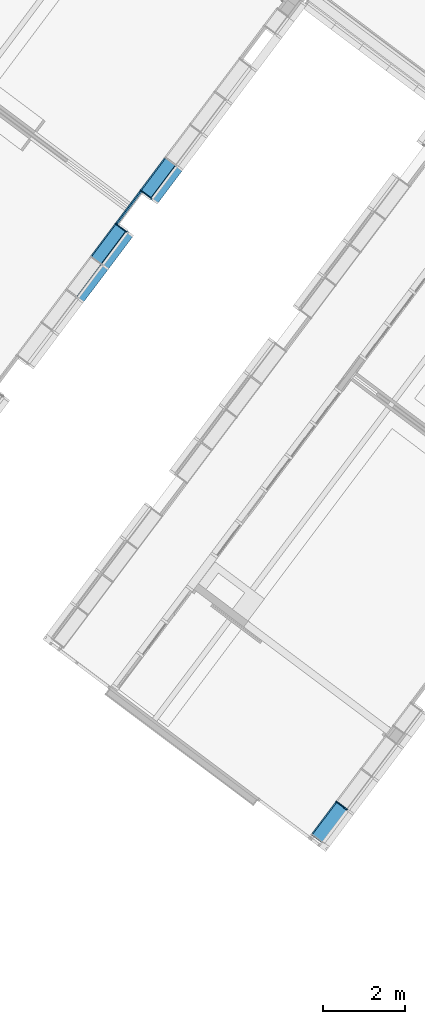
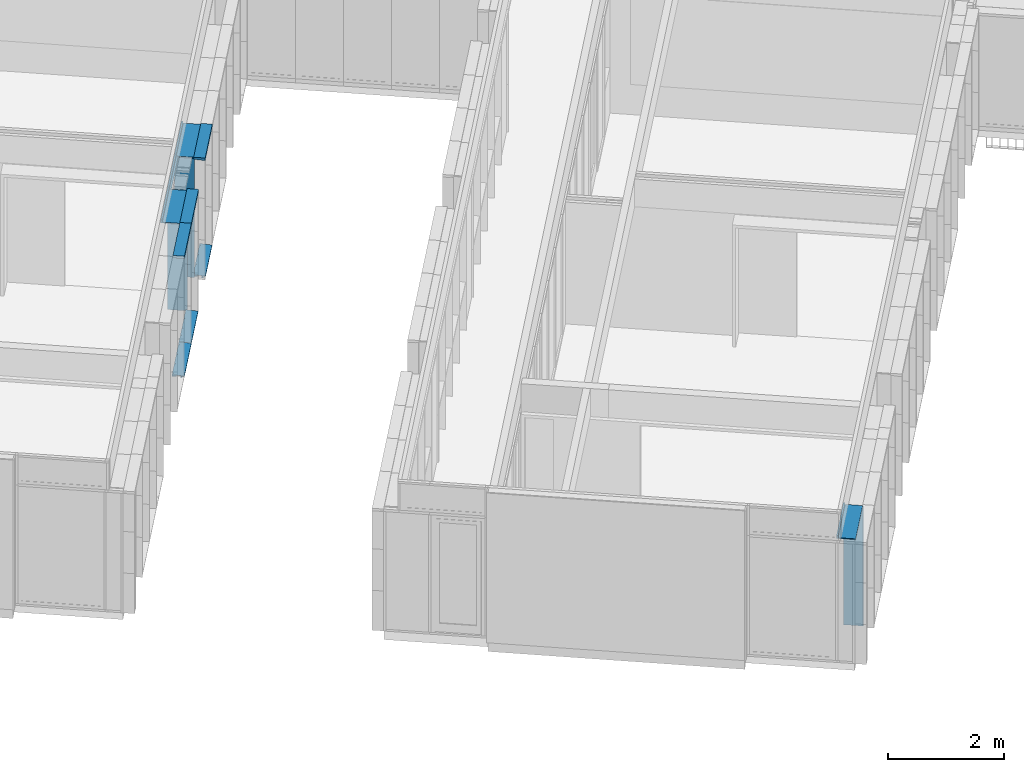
# One storey, part 42 of 243: 13 members, 3 elements without a shape of their own.
"""IFC2X3 building model written with IfcOpenShell, lengths in metres."""

from ifc_helpers import new_model, entity, si_unit, converted_unit, derived_unit, direction, frame, frame_2d, origin, place, context, subcontext, project, spatial, polyline, circle_curve, parameter, trimmed, segment, composite_curve, rectangle, outline, extrude, source, transform, mapped, material, type_object, type_shapes, element, aggregate, save


model = new_model("IFC2X3")

# Units and contexts
model_context = context("Model", 3, precision=1e-05, world=origin(), true_north=direction((6.123031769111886e-17, 1.0)))
body_context = subcontext(model_context, "Body", "Model", "MODEL_VIEW")
ifc_project = project(units=[si_unit("LENGTHUNIT", "METRE"), si_unit("AREAUNIT", "SQUARE_METRE"), si_unit("VOLUMEUNIT", "CUBIC_METRE"), converted_unit("PLANEANGLEUNIT", "DEGREE", entity("IfcRatioMeasure", 0.017453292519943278), si_unit("PLANEANGLEUNIT", "RADIAN"), dimensions=[0, 0, 0, 0, 0, 0, 0]), si_unit("MASSUNIT", "GRAM", prefix="KILO"), derived_unit("MASSDENSITYUNIT", [(si_unit("MASSUNIT", "GRAM", prefix="KILO"), 1), (si_unit("LENGTHUNIT", "METRE"), -3)]), derived_unit("IONCONCENTRATIONUNIT", [(si_unit("MASSUNIT", "GRAM", prefix="KILO"), 1), (si_unit("LENGTHUNIT", "METRE"), -3)]), derived_unit("MOMENTOFINERTIAUNIT", [(si_unit("LENGTHUNIT", "METRE"), 4)]), si_unit("TIMEUNIT", "SECOND"), si_unit("FREQUENCYUNIT", "HERTZ"), si_unit("THERMODYNAMICTEMPERATUREUNIT", "DEGREE_CELSIUS"), derived_unit("THERMALTRANSMITTANCEUNIT", [(si_unit("MASSUNIT", "GRAM", prefix="KILO"), 1), (si_unit("THERMODYNAMICTEMPERATUREUNIT", "KELVIN"), -1), (si_unit("TIMEUNIT", "SECOND"), -3)]), derived_unit("THERMALCONDUCTANCEUNIT", [(si_unit("MASSUNIT", "GRAM", prefix="KILO"), 1), (si_unit("THERMODYNAMICTEMPERATUREUNIT", "KELVIN"), -1), (si_unit("TIMEUNIT", "SECOND"), -3), (si_unit("LENGTHUNIT", "METRE"), 1)]), derived_unit("VOLUMETRICFLOWRATEUNIT", [(si_unit("LENGTHUNIT", "METRE"), 3), (si_unit("TIMEUNIT", "SECOND"), -1)]), derived_unit("MASSFLOWRATEUNIT", [(si_unit("MASSUNIT", "GRAM", prefix="KILO"), 1), (si_unit("TIMEUNIT", "SECOND"), -1)]), derived_unit("ROTATIONALFREQUENCYUNIT", [(si_unit("TIMEUNIT", "SECOND"), -1)]), si_unit("ELECTRICCURRENTUNIT", "AMPERE"), si_unit("ELECTRICVOLTAGEUNIT", "VOLT"), si_unit("POWERUNIT", "WATT"), si_unit("FORCEUNIT", "NEWTON", prefix="KILO"), si_unit("ILLUMINANCEUNIT", "LUX"), si_unit("LUMINOUSFLUXUNIT", "LUMEN"), si_unit("LUMINOUSINTENSITYUNIT", "CANDELA"), derived_unit("USERDEFINED", [(si_unit("MASSUNIT", "GRAM", prefix="KILO"), -1), (si_unit("LENGTHUNIT", "METRE"), -2), (si_unit("TIMEUNIT", "SECOND"), 3), (si_unit("LUMINOUSFLUXUNIT", "LUMEN"), 1)]), derived_unit("USERDEFINED", [(si_unit("MASSUNIT", "GRAM", prefix="KILO"), 1), (si_unit("TIMEUNIT", "SECOND"), -3), (si_unit("LENGTHUNIT", "METRE"), 3), (si_unit("ELECTRICCURRENTUNIT", "AMPERE"), -2)]), derived_unit("SOUNDPOWERUNIT", [(si_unit("MASSUNIT", "GRAM", prefix="KILO"), 1), (si_unit("TIMEUNIT", "SECOND"), -3), (si_unit("LENGTHUNIT", "METRE"), 2)]), derived_unit("SOUNDPRESSUREUNIT", [(si_unit("MASSUNIT", "GRAM", prefix="KILO"), 1), (si_unit("LENGTHUNIT", "METRE"), -1), (si_unit("TIMEUNIT", "SECOND"), -2)]), derived_unit("LINEARVELOCITYUNIT", [(si_unit("LENGTHUNIT", "METRE"), 1), (si_unit("TIMEUNIT", "SECOND"), -1)]), si_unit("PRESSUREUNIT", "PASCAL"), derived_unit("USERDEFINED", [(si_unit("MASSUNIT", "GRAM", prefix="KILO"), 1), (si_unit("LENGTHUNIT", "METRE"), -2), (si_unit("TIMEUNIT", "SECOND"), -2)]), derived_unit("LINEARFORCEUNIT", [(si_unit("MASSUNIT", "GRAM", prefix="KILO"), 1), (si_unit("TIMEUNIT", "SECOND"), -2)]), derived_unit("PLANARFORCEUNIT", [(si_unit("MASSUNIT", "GRAM", prefix="KILO"), 1), (si_unit("LENGTHUNIT", "METRE"), -1), (si_unit("TIMEUNIT", "SECOND"), -2)]), derived_unit("SPECIFICHEATCAPACITYUNIT", [(si_unit("THERMODYNAMICTEMPERATUREUNIT", "KELVIN"), -1), (si_unit("LENGTHUNIT", "METRE"), 2), (si_unit("TIMEUNIT", "SECOND"), -2)]), derived_unit("HEATINGVALUEUNIT", [(si_unit("LENGTHUNIT", "METRE"), 2), (si_unit("TIMEUNIT", "SECOND"), -2)]), derived_unit("VAPORPERMEABILITYUNIT", [(si_unit("LENGTHUNIT", "METRE"), -1), (si_unit("TIMEUNIT", "SECOND"), 1)]), derived_unit("DYNAMICVISCOSITYUNIT", [(si_unit("MASSUNIT", "GRAM", prefix="KILO"), 1), (si_unit("TIMEUNIT", "SECOND"), -1), (si_unit("LENGTHUNIT", "METRE"), -1)]), derived_unit("THERMALEXPANSIONCOEFFICIENTUNIT", [(si_unit("THERMODYNAMICTEMPERATUREUNIT", "KELVIN"), -1)]), derived_unit("MODULUSOFELASTICITYUNIT", [(si_unit("MASSUNIT", "GRAM", prefix="KILO"), 1), (si_unit("LENGTHUNIT", "METRE"), -1), (si_unit("TIMEUNIT", "SECOND"), -2)]), derived_unit("ISOTHERMALMOISTURECAPACITYUNIT", [(si_unit("LENGTHUNIT", "METRE"), 3), (si_unit("MASSUNIT", "GRAM", prefix="KILO"), -1)]), derived_unit("MOISTUREDIFFUSIVITYUNIT", [(si_unit("TIMEUNIT", "SECOND"), -1), (si_unit("LENGTHUNIT", "METRE"), 2)])], contexts=[model_context])

# Site, building, storey
site_placement = place(None, frame((0.0, 0.0, 235.0), z_axis=(0.0, 0.0, 1.0), x_axis=(-0.7996477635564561, 0.6004693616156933, 0.0)))
site = spatial("IfcSite", under=ifc_project, at=site_placement, Name="Default", CompositionType="ELEMENT")
building_placement = place(site_placement, origin())
building = spatial("IfcBuilding", under=site, at=building_placement, CompositionType="ELEMENT")
storey_placement = place(building_placement, origin())
storey = spatial("IfcBuildingStorey", under=building, at=storey_placement, Name="P0- Escola", CompositionType="ELEMENT", Elevation=0.0)

# Curtain wall, members
curtain_wall_type_1 = type_object("IfcCurtainWallType", Name="Muro cortina:MC- EXT- MC2", PredefinedType="NOTDEFINED")
curtain_wall_1_placement = place(storey_placement, origin())
curtain_wall_1 = element("IfcCurtainWall", 1, at=curtain_wall_1_placement, inside=storey, type_object=curtain_wall_type_1, Name="Muro cortina:MC- EXT- MC2", ObjectType="Muro cortina:MC- EXT- MC2")
ifc_material_1 = material(Name="_Alumini- T1- Perfil")
member_type_1 = type_object("IfcMemberType", Name="Montante rectangular:MC- Alu- 140x52,5 cm- Fa patis- Superior", PredefinedType="MULLION", material=ifc_material_1)
shared_shape_1 = source(origin(), body_context, "Body", "SweptSolid", [
    extrude(outline(polyline([(-0.11366666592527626, -0.021249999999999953), (0.026333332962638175, -0.021249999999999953), (0.026333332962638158, -0.010000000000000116), (0.0873333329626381, -0.010000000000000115), (0.0873333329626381, 0.03125000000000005), (-0.11366666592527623, 0.031250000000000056), (-0.11366666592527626, -0.021249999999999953)])), frame((-0.031250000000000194, 0.0273333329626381, -1.0), z_axis=(0.0, 0.0, 1.0), x_axis=(0.0, -1.0, 0.0)), (0.0, 0.0, 1.0), 0.9999999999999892),
])
type_shapes(member_type_1, [shared_shape_1])
member_1_placement = place(curtain_wall_1_placement, frame((66.44514768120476, -28.415191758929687, 2.545), z_axis=(0.0, -1.0, 0.0), x_axis=(0.0, 0.0, 1.0)))
member_1 = element("IfcMember", 2, at=member_1_placement, type_object=member_type_1, material=ifc_material_1, Name="Montante rectangular:MC- Alu- 140x52,5 cm- Fa patis- Superior", ObjectType="Montante rectangular:MC- Alu- 140x52,5 cm- Fa patis- Superior", context=body_context, shape_type="MappedRepresentation", body=[
    mapped(shared_shape_1, transform((0.0, 0.0, 0.0), scale=1.0)),
])
member_type_2 = type_object("IfcMemberType", Name="Montante rectangular:MC- Alu- 140x52,5 cm- Fa patis- inferior", PredefinedType="MULLION", material=ifc_material_1)
shared_shape_2 = source(origin(), body_context, "Body", "SweptSolid", [
    extrude(outline(composite_curve([segment(polyline([(0.1278672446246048, -0.02586710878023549), (0.14416724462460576, -0.025867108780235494)]), True, "CONTINUOUS"), segment(polyline([(0.14416724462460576, -0.025867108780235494), (0.1441672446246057, 0.009132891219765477)]), True, "CONTINUOUS"), segment(polyline([(0.1441672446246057, 0.009132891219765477), (0.06786724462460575, 0.009132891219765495)]), True, "CONTINUOUS"), segment(polyline([(0.06786724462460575, 0.009132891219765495), (0.06786724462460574, -0.021159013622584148)]), True, "CONTINUOUS"), segment(polyline([(0.06786724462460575, -0.02115901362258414), (-0.030132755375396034, -0.012332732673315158)]), True, "CONTINUOUS"), segment(polyline([(-0.03013275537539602, -0.012332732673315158), (-0.030132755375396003, 0.027132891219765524)]), True, "CONTINUOUS"), segment(polyline([(-0.030132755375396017, 0.02713289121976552), (-0.0021327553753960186, 0.02713289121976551)]), True, "CONTINUOUS"), segment(polyline([(-0.0021327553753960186, 0.027132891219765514), (-0.0021327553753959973, 0.029132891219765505)]), True, "CONTINUOUS"), segment(polyline([(-0.0021327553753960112, 0.029132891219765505), (-0.032132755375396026, 0.029132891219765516)]), True, "CONTINUOUS"), segment(polyline([(-0.032132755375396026, 0.029132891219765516), (-0.03213275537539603, -0.012152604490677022)]), True, "CONTINUOUS"), segment(polyline([(-0.03213275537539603, -0.012152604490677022), (-0.0701327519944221, -0.008730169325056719)]), True, "CONTINUOUS"), segment(polyline([(-0.0701327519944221, -0.008730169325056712), (-0.0701327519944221, 0.005766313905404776)]), True, "CONTINUOUS"), segment(trimmed(circle_curve(frame_2d((-0.0696327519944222, 0.0057663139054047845), x_axis=(-1.0, 0.0)), 0.0004999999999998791), [parameter(269.999999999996)], [parameter(0.0)], True, "PARAMETER"), False, "CONTINUOUS"), segment(polyline([(-0.0696327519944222, 0.00626631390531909), (-0.06213275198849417, 0.006266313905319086)]), True, "CONTINUOUS"), segment(polyline([(-0.06213275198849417, 0.006266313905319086), (-0.06213275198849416, 0.008266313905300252)]), True, "CONTINUOUS"), segment(polyline([(-0.06213275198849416, 0.008266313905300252), (-0.07013275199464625, 0.008266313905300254)]), True, "CONTINUOUS"), segment(trimmed(circle_curve(frame_2d((-0.07013275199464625, 0.006266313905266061), x_axis=(0.0, 1.0)), 0.0020000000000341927), [parameter(0.0)], [parameter(90.00000002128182)], True, "PARAMETER"), True, "CONTINUOUS"), segment(polyline([(-0.07213275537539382, 0.006266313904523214), (-0.07213275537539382, -0.008730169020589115)]), True, "CONTINUOUS"), segment(trimmed(circle_curve(frame_2d((-0.07013275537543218, -0.008730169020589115), x_axis=(-1.0, 0.0)), 0.0019999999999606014), [parameter(0.0)], [parameter(84.8535928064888)], True, "PARAMETER"), True, "CONTINUOUS"), segment(polyline([(-0.07031215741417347, -0.01072210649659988), (0.06786724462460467, -0.023167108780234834)]), True, "CONTINUOUS"), segment(polyline([(0.06786724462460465, -0.023167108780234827), (0.12786724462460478, -0.023167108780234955)]), True, "CONTINUOUS"), segment(polyline([(0.12786724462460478, -0.023167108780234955), (0.1278672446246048, -0.02586710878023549)]), True, "CONTINUOUS")], self_intersect=False)), frame((-0.029132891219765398, 0.06786724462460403, -1.0), z_axis=(0.0, 0.0, 1.0), x_axis=(0.0, -1.0, 0.0)), (0.0, 0.0, 1.0), 0.9999999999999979),
])
type_shapes(member_type_2, [shared_shape_2])
member_2_placement = place(curtain_wall_1_placement, frame((66.44514768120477, -27.41519175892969, -0.02), z_axis=(0.0, 1.0, 0.0), x_axis=(0.0, 0.0, -1.0)))
member_2 = element("IfcMember", 3, at=member_2_placement, type_object=member_type_2, material=ifc_material_1, Name="Montante rectangular:MC- Alu- 140x52,5 cm- Fa patis- inferior", ObjectType="Montante rectangular:MC- Alu- 140x52,5 cm- Fa patis- inferior", context=body_context, shape_type="MappedRepresentation", body=[
    mapped(shared_shape_2, transform((0.0, 0.0, 0.0), scale=1.0)),
])

curtain_wall_type_2 = type_object("IfcCurtainWallType", Name="Muro cortina:MC- INT- k7- Aules infantil", PredefinedType="NOTDEFINED")
curtain_wall_2_placement = place(storey_placement, origin())
curtain_wall_2 = element("IfcCurtainWall", 4, at=curtain_wall_2_placement, inside=storey, type_object=curtain_wall_type_2, Name="Muro cortina:MC- INT- k7- Aules infantil", ObjectType="Muro cortina:MC- INT- k7- Aules infantil")
ifc_material_2 = material(Name="_Fusta massisa- T1")
member_type_3 = type_object("IfcMemberType", Name="Montante rectangular:MC- Fusta- 35x3 cm- Pati aules- Remat superior", PredefinedType="MULLION", material=ifc_material_2)
shared_shape_3 = source(origin(), body_context, "Body", "SweptSolid", [
    extrude(outline(polyline([(-0.21333333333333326, -0.02666666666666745), (0.1216666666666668, -0.02666666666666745), (0.12166666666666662, 0.03333333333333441), (0.09166666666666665, 0.03333333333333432), (0.09166666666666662, -0.006666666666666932), (-0.2133333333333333, -0.006666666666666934), (-0.21333333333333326, -0.02666666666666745)])), frame((-0.033333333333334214, 0.026666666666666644, -1.0100000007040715), z_axis=(0.0, 0.0, 1.0), x_axis=(0.0, -1.0, 0.0)), (0.0, 0.0, 1.0), 1.0100000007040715),
])
type_shapes(member_type_3, [shared_shape_3])
member_3_placement = place(curtain_wall_2_placement, frame((54.04514768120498, -21.41519175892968, 2.565), z_axis=(0.0, -1.0, 0.0), x_axis=(0.0, 0.0, 1.0)))
member_3 = element("IfcMember", 5, at=member_3_placement, type_object=member_type_3, material=ifc_material_2, Name="Montante rectangular:MC- Fusta- 35x3 cm- Pati aules- Remat superior", ObjectType="Montante rectangular:MC- Fusta- 35x3 cm- Pati aules- Remat superior", context=body_context, shape_type="MappedRepresentation", body=[
    mapped(shared_shape_3, transform((0.0, 0.0, 0.0), scale=1.0)),
])
member_type_4 = type_object("IfcMemberType", Name="Montante rectangular:MC- Fusta- 35x3 cm- Centre", PredefinedType="MULLION", material=ifc_material_2)
shared_shape_4 = source(origin(), body_context, "Body", "SweptSolid", [
    extrude(rectangle(XDim=0.3450000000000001, YDim=0.030000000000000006, at=frame_2d((0.0, 1.3964523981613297e-16), x_axis=(1.0, 0.0))), frame((0.0, 0.07750000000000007, -2.5049999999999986), z_axis=(0.0, 0.0, 1.0), x_axis=(0.0, -1.0, 0.0)), (0.0, 0.0, 1.0), 2.5049999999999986),
])
type_shapes(member_type_4, [shared_shape_4])
member_4_placement = place(curtain_wall_2_placement, frame((54.04514768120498, -21.41519175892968, 0.0), z_axis=(0.0, 0.0, -1.0), x_axis=(0.0, -1.0, 0.0)))
member_4 = element("IfcMember", 6, at=member_4_placement, type_object=member_type_4, material=ifc_material_2, Name="Montante rectangular:MC- Fusta- 35x3 cm- Centre", ObjectType="Montante rectangular:MC- Fusta- 35x3 cm- Centre", context=body_context, shape_type="MappedRepresentation", body=[
    mapped(shared_shape_4, transform((0.0, 0.0, 0.0), scale=1.0)),
])
aggregate(curtain_wall_2, [member_3, member_4])

curtain_wall_3_placement = place(storey_placement, origin())
curtain_wall_3 = element("IfcCurtainWall", 7, at=curtain_wall_3_placement, inside=storey, type_object=curtain_wall_type_2, Name="Muro cortina:MC- INT- k7- Aules infantil", ObjectType="Muro cortina:MC- INT- k7- Aules infantil")
member_type_5 = type_object("IfcMemberType", Name="Montante rectangular:MC- Fusta- 35x3 cm- Pati aules- Remat dreta", PredefinedType="MULLION", material=ifc_material_2)
shared_shape_5 = source(origin(), body_context, "Body", "SweptSolid", [
    extrude(outline(polyline([(-0.22, -0.01666666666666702), (0.12500000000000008, -0.01666666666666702), (0.12500000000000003, 0.013333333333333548), (0.09500000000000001, 0.013333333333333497), (0.09499999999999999, 0.003333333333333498), (-0.22, 0.003333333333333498), (-0.22, -0.01666666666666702)])), frame((0.0016666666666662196, 0.03000000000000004, -2.504999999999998), z_axis=(0.0, 0.0, 1.0), x_axis=(0.0, -1.0, 0.0)), (0.0, 0.0, 1.0), 2.5049999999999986),
])
type_shapes(member_type_5, [shared_shape_5])
member_5_placement = place(curtain_wall_3_placement, frame((66.74514768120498, -29.415191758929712, 0.0), z_axis=(0.0, 0.0, -1.0), x_axis=(0.0, -1.0, 0.0)))
member_5 = element("IfcMember", 8, at=member_5_placement, type_object=member_type_5, material=ifc_material_2, Name="Montante rectangular:MC- Fusta- 35x3 cm- Pati aules- Remat dreta", ObjectType="Montante rectangular:MC- Fusta- 35x3 cm- Pati aules- Remat dreta", context=body_context, shape_type="MappedRepresentation", body=[
    mapped(shared_shape_5, transform((0.0, 0.0, 0.0), scale=1.0)),
])
member_type_6 = type_object("IfcMemberType", Name="Montante rectangular:MC- Fusta- 35x3 cm- Pati aules- Remat superior pilar", PredefinedType="MULLION", material=ifc_material_2)
shared_shape_6 = source(origin(), body_context, "Body", "SweptSolid", [
    extrude(outline(polyline([(-0.03333333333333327, -0.02666666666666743), (0.031666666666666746, -0.02666666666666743), (0.031666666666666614, 0.03333333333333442), (0.0016666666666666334, 0.033333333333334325), (0.0016666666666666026, -0.006666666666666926), (-0.03333333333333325, -0.00666666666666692), (-0.03333333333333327, -0.02666666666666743)])), frame((-0.03333333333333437, -0.06333333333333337, -1.0), z_axis=(0.0, 0.0, 1.0), x_axis=(0.0, -1.0, 0.0)), (0.0, 0.0, 1.0), 0.9999999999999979),
])
type_shapes(member_type_6, [shared_shape_6])
member_6_placement = place(curtain_wall_3_placement, frame((66.745147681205, -30.415191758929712, 2.565), z_axis=(0.0, -1.0, 0.0), x_axis=(0.0, 0.0, 1.0)))
member_6 = element("IfcMember", 9, at=member_6_placement, type_object=member_type_6, material=ifc_material_2, Name="Montante rectangular:MC- Fusta- 35x3 cm- Pati aules- Remat superior pilar", ObjectType="Montante rectangular:MC- Fusta- 35x3 cm- Pati aules- Remat superior pilar", context=body_context, shape_type="MappedRepresentation", body=[
    mapped(shared_shape_6, transform((0.0, 0.0, 0.0), scale=1.0)),
])
member_type_7 = type_object("IfcMemberType", Name="Montante rectangular:MC- Fusta- 35x3 cm- Pati aules- Remat esquerra", PredefinedType="MULLION", material=ifc_material_2)
shared_shape_7 = source(origin(), body_context, "Body", "SweptSolid", [
    extrude(outline(polyline([(0.09500000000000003, -0.013333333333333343), (0.12500000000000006, -0.013333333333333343), (0.12500000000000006, 0.01666666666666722), (-0.22000000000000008, 0.016666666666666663), (-0.22000000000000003, -0.0033333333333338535), (0.09499999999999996, -0.003333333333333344), (0.09500000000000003, -0.013333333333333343)])), frame((-0.0016666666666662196, 0.03000000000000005, -2.504999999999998), z_axis=(0.0, 0.0, 1.0), x_axis=(0.0, -1.0, 0.0)), (0.0, 0.0, 1.0), 2.5049999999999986),
])
type_shapes(member_type_7, [shared_shape_7])
member_7_placement = place(curtain_wall_3_placement, frame((66.745147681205, -30.415191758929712, 0.0), z_axis=(0.0, 0.0, -1.0), x_axis=(0.0, -1.0, 0.0)))
member_7 = element("IfcMember", 10, at=member_7_placement, type_object=member_type_7, material=ifc_material_2, Name="Montante rectangular:MC- Fusta- 35x3 cm- Pati aules- Remat esquerra", ObjectType="Montante rectangular:MC- Fusta- 35x3 cm- Pati aules- Remat esquerra", context=body_context, shape_type="MappedRepresentation", body=[
    mapped(shared_shape_7, transform((0.0, 0.0, 0.0), scale=1.0)),
])
member_type_8 = type_object("IfcMemberType", Name="Montante rectangular:MC- Fusta- 35x3 cm- Pati aules- Remat superior", PredefinedType="MULLION", material=ifc_material_2)
shared_shape_8 = source(origin(), body_context, "Body", "SweptSolid", [
    extrude(outline(polyline([(-0.21333333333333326, -0.02666666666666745), (0.1216666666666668, -0.02666666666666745), (0.12166666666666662, 0.03333333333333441), (0.09166666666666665, 0.03333333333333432), (0.09166666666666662, -0.006666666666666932), (-0.2133333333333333, -0.006666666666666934), (-0.21333333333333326, -0.02666666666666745)])), frame((-0.033333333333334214, 0.026666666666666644, -1.0), z_axis=(0.0, 0.0, 1.0), x_axis=(0.0, -1.0, 0.0)), (0.0, 0.0, 1.0), 0.9999999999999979),
])
type_shapes(member_type_8, [shared_shape_8])
member_8_placement = place(curtain_wall_3_placement, frame((66.745147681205, -31.41519175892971, 2.565), z_axis=(0.0, -1.0, 0.0), x_axis=(0.0, 0.0, 1.0)))
member_8 = element("IfcMember", 11, at=member_8_placement, type_object=member_type_8, material=ifc_material_2, Name="Montante rectangular:MC- Fusta- 35x3 cm- Pati aules- Remat superior", ObjectType="Montante rectangular:MC- Fusta- 35x3 cm- Pati aules- Remat superior", context=body_context, shape_type="MappedRepresentation", body=[
    mapped(shared_shape_8, transform((0.0, 0.0, 0.0), scale=1.0)),
])
member_type_9 = type_object("IfcMemberType", Name="Montante rectangular:MC- Fusta- 35x3 cm- Pati aules- Remat superior", PredefinedType="MULLION", material=ifc_material_2)
shared_shape_9 = source(origin(), body_context, "Body", "SweptSolid", [
    extrude(outline(polyline([(-0.21333333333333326, -0.02666666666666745), (0.1216666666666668, -0.02666666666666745), (0.12166666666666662, 0.03333333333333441), (0.09166666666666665, 0.03333333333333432), (0.09166666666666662, -0.006666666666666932), (-0.2133333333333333, -0.006666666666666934), (-0.21333333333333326, -0.02666666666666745)])), frame((-0.033333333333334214, 0.026666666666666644, -1.0), z_axis=(0.0, 0.0, 1.0), x_axis=(0.0, -1.0, 0.0)), (0.0, 0.0, 1.0), 0.9999999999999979),
])
type_shapes(member_type_9, [shared_shape_9])
member_9_placement = place(curtain_wall_3_placement, frame((66.74514768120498, -29.415191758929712, 2.565), z_axis=(0.0, -1.0, 0.0), x_axis=(0.0, 0.0, 1.0)))
member_9 = element("IfcMember", 12, at=member_9_placement, type_object=member_type_9, material=ifc_material_2, Name="Montante rectangular:MC- Fusta- 35x3 cm- Pati aules- Remat superior", ObjectType="Montante rectangular:MC- Fusta- 35x3 cm- Pati aules- Remat superior", context=body_context, shape_type="MappedRepresentation", body=[
    mapped(shared_shape_9, transform((0.0, 0.0, 0.0), scale=1.0)),
])
aggregate(curtain_wall_3, [member_9, member_5, member_6, member_7, member_8])

# Member
member_type_10 = type_object("IfcMemberType", Name="Montante rectangular:MC- Alu- 140x52,5 cm- Fa patis- Superior", PredefinedType="MULLION", material=ifc_material_1)
shared_shape_10 = source(origin(), body_context, "Body", "SweptSolid", [
    extrude(outline(polyline([(-0.11366666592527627, -0.021249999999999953), (0.02633333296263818, -0.021249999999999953), (0.02633333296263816, -0.010000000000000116), (0.08733333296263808, -0.010000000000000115), (0.08733333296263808, 0.03125000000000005), (-0.11366666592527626, 0.031250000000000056), (-0.11366666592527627, -0.021249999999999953)])), frame((-0.031250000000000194, 0.027333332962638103, -1.0262500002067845), z_axis=(0.0, 0.0, 1.0), x_axis=(0.0, -1.0, 0.0)), (0.0, 0.0, 1.0), 1.0262500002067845),
])
type_shapes(member_type_10, [shared_shape_10])
member_10_placement = place(curtain_wall_1_placement, frame((66.44514768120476, -31.41519175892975, 2.545), z_axis=(0.0, -1.0, 0.0), x_axis=(0.0, 0.0, 1.0)))
member_10 = element("IfcMember", 13, at=member_10_placement, type_object=member_type_10, material=ifc_material_1, Name="Montante rectangular:MC- Alu- 140x52,5 cm- Fa patis- Superior", ObjectType="Montante rectangular:MC- Alu- 140x52,5 cm- Fa patis- Superior", context=body_context, shape_type="MappedRepresentation", body=[
    mapped(shared_shape_10, transform((0.0, 0.0, 0.0), scale=1.0)),
])

member_type_11 = type_object("IfcMemberType", Name="Montante rectangular:MC- Alu- 140x52,5 cm- Fa patis- inferior", PredefinedType="MULLION", material=ifc_material_1)
shared_shape_11 = source(origin(), body_context, "Body", "SweptSolid", [
    extrude(outline(composite_curve([segment(polyline([(0.1278672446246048, -0.02586710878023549), (0.14416724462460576, -0.025867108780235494)]), True, "CONTINUOUS"), segment(polyline([(0.14416724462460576, -0.025867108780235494), (0.1441672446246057, 0.009132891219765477)]), True, "CONTINUOUS"), segment(polyline([(0.1441672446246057, 0.009132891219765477), (0.06786724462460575, 0.009132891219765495)]), True, "CONTINUOUS"), segment(polyline([(0.06786724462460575, 0.009132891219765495), (0.06786724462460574, -0.021159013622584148)]), True, "CONTINUOUS"), segment(polyline([(0.06786724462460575, -0.02115901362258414), (-0.030132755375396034, -0.012332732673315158)]), True, "CONTINUOUS"), segment(polyline([(-0.03013275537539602, -0.012332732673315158), (-0.030132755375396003, 0.027132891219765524)]), True, "CONTINUOUS"), segment(polyline([(-0.030132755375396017, 0.02713289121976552), (-0.0021327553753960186, 0.02713289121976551)]), True, "CONTINUOUS"), segment(polyline([(-0.0021327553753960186, 0.027132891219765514), (-0.0021327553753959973, 0.029132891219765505)]), True, "CONTINUOUS"), segment(polyline([(-0.0021327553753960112, 0.029132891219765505), (-0.032132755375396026, 0.029132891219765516)]), True, "CONTINUOUS"), segment(polyline([(-0.032132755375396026, 0.029132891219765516), (-0.03213275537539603, -0.012152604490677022)]), True, "CONTINUOUS"), segment(polyline([(-0.03213275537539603, -0.012152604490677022), (-0.0701327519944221, -0.008730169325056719)]), True, "CONTINUOUS"), segment(polyline([(-0.0701327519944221, -0.008730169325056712), (-0.0701327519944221, 0.005766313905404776)]), True, "CONTINUOUS"), segment(trimmed(circle_curve(frame_2d((-0.0696327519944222, 0.0057663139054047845), x_axis=(-1.0, 0.0)), 0.0004999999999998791), [parameter(269.999999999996)], [parameter(0.0)], True, "PARAMETER"), False, "CONTINUOUS"), segment(polyline([(-0.0696327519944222, 0.00626631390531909), (-0.06213275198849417, 0.006266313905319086)]), True, "CONTINUOUS"), segment(polyline([(-0.06213275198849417, 0.006266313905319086), (-0.06213275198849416, 0.008266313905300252)]), True, "CONTINUOUS"), segment(polyline([(-0.06213275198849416, 0.008266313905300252), (-0.07013275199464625, 0.008266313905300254)]), True, "CONTINUOUS"), segment(trimmed(circle_curve(frame_2d((-0.07013275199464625, 0.006266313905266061), x_axis=(0.0, 1.0)), 0.0020000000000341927), [parameter(0.0)], [parameter(90.00000002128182)], True, "PARAMETER"), True, "CONTINUOUS"), segment(polyline([(-0.07213275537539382, 0.006266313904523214), (-0.07213275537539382, -0.008730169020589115)]), True, "CONTINUOUS"), segment(trimmed(circle_curve(frame_2d((-0.07013275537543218, -0.008730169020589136), x_axis=(-1.0, 0.0)), 0.0019999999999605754), [parameter(0.0)], [parameter(84.85359280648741)], True, "PARAMETER"), True, "CONTINUOUS"), segment(polyline([(-0.07031215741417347, -0.01072210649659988), (0.06786724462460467, -0.023167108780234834)]), True, "CONTINUOUS"), segment(polyline([(0.06786724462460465, -0.023167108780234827), (0.12786724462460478, -0.023167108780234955)]), True, "CONTINUOUS"), segment(polyline([(0.12786724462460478, -0.023167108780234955), (0.1278672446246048, -0.02586710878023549)]), True, "CONTINUOUS")], self_intersect=False)), frame((-0.029132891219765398, 0.06786724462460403, -0.9737499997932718), z_axis=(0.0, 0.0, 1.0), x_axis=(0.0, -1.0, 0.0)), (0.0, 0.0, 1.0), 0.9737499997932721),
])
type_shapes(member_type_11, [shared_shape_11])
member_11_placement = place(curtain_wall_1_placement, frame((66.44514768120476, -28.415191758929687, -0.02), z_axis=(0.0, 1.0, 0.0), x_axis=(0.0, 0.0, -1.0)))
member_11 = element("IfcMember", 14, at=member_11_placement, type_object=member_type_11, material=ifc_material_1, Name="Montante rectangular:MC- Alu- 140x52,5 cm- Fa patis- inferior", ObjectType="Montante rectangular:MC- Alu- 140x52,5 cm- Fa patis- inferior", context=body_context, shape_type="MappedRepresentation", body=[
    mapped(shared_shape_11, transform((0.0, 0.0, 0.0), scale=1.0)),
])

member_type_12 = type_object("IfcMemberType", Name="Montante rectangular:MC- Alu- 140x52,5 cm- Fa patis- Superior", PredefinedType="MULLION", material=ifc_material_1)
shared_shape_12 = source(origin(), body_context, "Body", "SweptSolid", [
    extrude(outline(polyline([(-0.11366666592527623, -0.021249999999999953), (0.026333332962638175, -0.021249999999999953), (0.026333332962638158, -0.010000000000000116), (0.08733333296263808, -0.010000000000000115), (0.08733333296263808, 0.03125000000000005), (-0.11366666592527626, 0.031250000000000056), (-0.11366666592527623, -0.021249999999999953)])), frame((-0.031250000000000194, 0.0273333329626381, -1.0262500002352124), z_axis=(0.0, 0.0, 1.0), x_axis=(0.0, -1.0, 0.0)), (0.0, 0.0, 1.0), 1.0262500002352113),
])
type_shapes(member_type_12, [shared_shape_12])
member_12_placement = place(curtain_wall_1_placement, frame((66.44514768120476, -29.441441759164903, 2.545), z_axis=(0.0, -1.0, 0.0), x_axis=(0.0, 0.0, 1.0)))
member_12 = element("IfcMember", 15, at=member_12_placement, type_object=member_type_12, material=ifc_material_1, Name="Montante rectangular:MC- Alu- 140x52,5 cm- Fa patis- Superior", ObjectType="Montante rectangular:MC- Alu- 140x52,5 cm- Fa patis- Superior", context=body_context, shape_type="MappedRepresentation", body=[
    mapped(shared_shape_12, transform((0.0, 0.0, 0.0), scale=1.0)),
])

member_type_13 = type_object("IfcMemberType", Name="Montante rectangular:MC- Alu- 140x52,5 cm- Fa patis- inferior", PredefinedType="MULLION", material=ifc_material_1)
shared_shape_13 = source(origin(), body_context, "Body", "SweptSolid", [
    extrude(outline(composite_curve([segment(polyline([(0.1278672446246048, -0.02586710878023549), (0.14416724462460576, -0.025867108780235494)]), True, "CONTINUOUS"), segment(polyline([(0.14416724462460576, -0.025867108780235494), (0.1441672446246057, 0.009132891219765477)]), True, "CONTINUOUS"), segment(polyline([(0.1441672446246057, 0.009132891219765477), (0.06786724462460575, 0.009132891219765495)]), True, "CONTINUOUS"), segment(polyline([(0.06786724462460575, 0.009132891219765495), (0.06786724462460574, -0.021159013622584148)]), True, "CONTINUOUS"), segment(polyline([(0.06786724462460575, -0.02115901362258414), (-0.030132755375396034, -0.012332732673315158)]), True, "CONTINUOUS"), segment(polyline([(-0.03013275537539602, -0.012332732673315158), (-0.030132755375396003, 0.027132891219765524)]), True, "CONTINUOUS"), segment(polyline([(-0.030132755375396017, 0.02713289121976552), (-0.0021327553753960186, 0.02713289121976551)]), True, "CONTINUOUS"), segment(polyline([(-0.0021327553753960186, 0.027132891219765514), (-0.0021327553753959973, 0.029132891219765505)]), True, "CONTINUOUS"), segment(polyline([(-0.0021327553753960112, 0.029132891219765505), (-0.032132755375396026, 0.029132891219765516)]), True, "CONTINUOUS"), segment(polyline([(-0.032132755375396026, 0.029132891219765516), (-0.03213275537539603, -0.012152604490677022)]), True, "CONTINUOUS"), segment(polyline([(-0.03213275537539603, -0.012152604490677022), (-0.0701327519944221, -0.008730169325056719)]), True, "CONTINUOUS"), segment(polyline([(-0.0701327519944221, -0.008730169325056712), (-0.0701327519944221, 0.005766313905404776)]), True, "CONTINUOUS"), segment(trimmed(circle_curve(frame_2d((-0.0696327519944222, 0.0057663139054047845), x_axis=(-1.0, 0.0)), 0.0004999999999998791), [parameter(269.999999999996)], [parameter(0.0)], True, "PARAMETER"), False, "CONTINUOUS"), segment(polyline([(-0.0696327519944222, 0.00626631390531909), (-0.06213275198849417, 0.006266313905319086)]), True, "CONTINUOUS"), segment(polyline([(-0.06213275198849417, 0.006266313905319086), (-0.06213275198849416, 0.008266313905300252)]), True, "CONTINUOUS"), segment(polyline([(-0.06213275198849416, 0.008266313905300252), (-0.07013275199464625, 0.008266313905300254)]), True, "CONTINUOUS"), segment(trimmed(circle_curve(frame_2d((-0.07013275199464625, 0.006266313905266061), x_axis=(0.0, 1.0)), 0.0020000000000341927), [parameter(0.0)], [parameter(90.00000002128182)], True, "PARAMETER"), True, "CONTINUOUS"), segment(polyline([(-0.07213275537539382, 0.006266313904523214), (-0.07213275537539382, -0.008730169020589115)]), True, "CONTINUOUS"), segment(trimmed(circle_curve(frame_2d((-0.07013275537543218, -0.008730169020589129), x_axis=(-1.0, 0.0)), 0.0019999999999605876), [parameter(0.0)], [parameter(84.85359280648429)], True, "PARAMETER"), True, "CONTINUOUS"), segment(polyline([(-0.07031215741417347, -0.01072210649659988), (0.06786724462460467, -0.023167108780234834)]), True, "CONTINUOUS"), segment(polyline([(0.06786724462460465, -0.023167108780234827), (0.12786724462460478, -0.023167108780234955)]), True, "CONTINUOUS"), segment(polyline([(0.12786724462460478, -0.023167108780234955), (0.1278672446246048, -0.02586710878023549)]), True, "CONTINUOUS")], self_intersect=False)), frame((-0.029132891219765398, 0.06786724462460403, -0.9474999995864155), z_axis=(0.0, 0.0, 1.0), x_axis=(0.0, -1.0, 0.0)), (0.0, 0.0, 1.0), 0.9474999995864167),
])
type_shapes(member_type_13, [shared_shape_13])
member_13_placement = place(curtain_wall_1_placement, frame((66.44514768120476, -30.441441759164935, -0.02), z_axis=(0.0, 1.0, 0.0), x_axis=(0.0, 0.0, -1.0)))
member_13 = element("IfcMember", 16, at=member_13_placement, type_object=member_type_13, material=ifc_material_1, Name="Montante rectangular:MC- Alu- 140x52,5 cm- Fa patis- inferior", ObjectType="Montante rectangular:MC- Alu- 140x52,5 cm- Fa patis- inferior", context=body_context, shape_type="MappedRepresentation", body=[
    mapped(shared_shape_13, transform((0.0, 0.0, 0.0), scale=1.0)),
])

aggregate(curtain_wall_1, [member_2, member_1, member_11, member_12, member_10, member_13])

save(model, "model.ifc")
